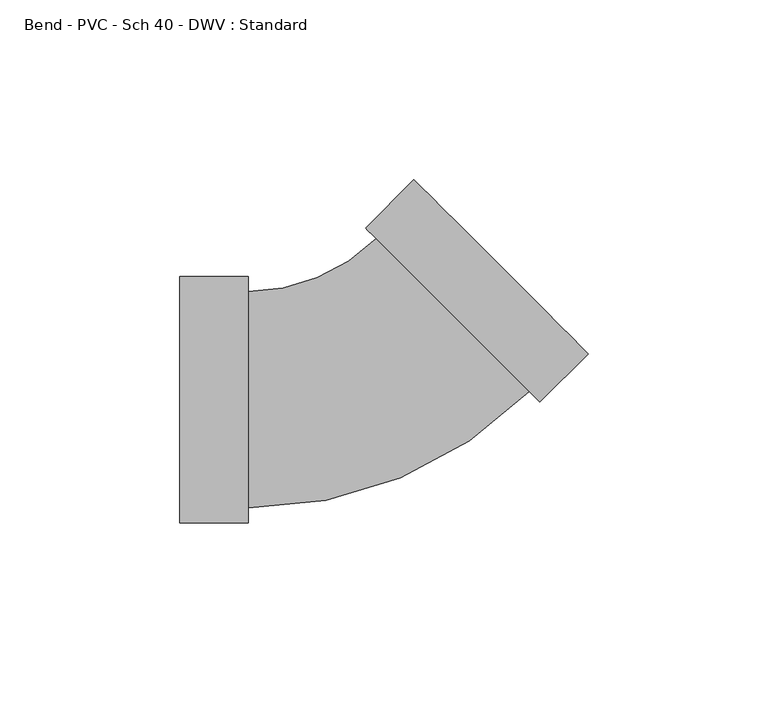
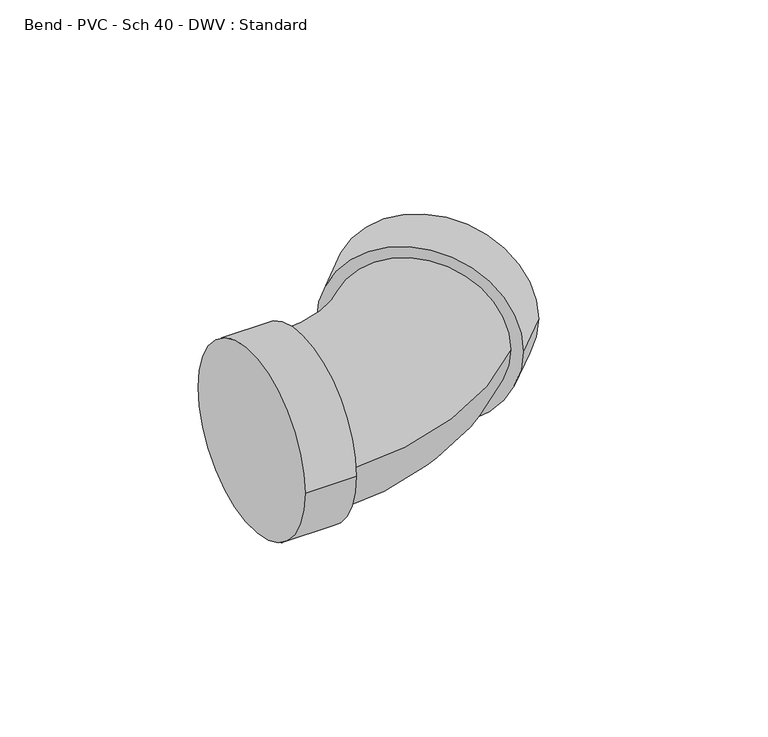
"""IFC4 building model written with IfcOpenShell, lengths in millimetres: pipe fitting geometry, Bend - PVC - Sch 40 - DWV : Standard."""

import ifcopenshell
import ifcopenshell.guid

model = None  # the IFC model being written
_history = None  # IfcOwnerHistory: only IFC2X3 demands one
_inside = {}  # id of a spatial element -> (the spatial element, [elements in it])
_under = {}  # id of a project, library or spatial element -> (it, [spatial elements below it])
_declared = {}  # id of a project -> (the project, [libraries it declares])
_typed = {}  # id of a type object -> (the type object, [elements of that type])
_made_of = {}  # id of a material, layer set ... -> (it, [elements and type objects made of it])


def new_model(schema):
    """Start an empty IFC model of exactly this schema.

    Asked for "IFC4X3", IfcOpenShell would pick the latest addendum, in which some entities
    have other attributes; the version numbers below select the first issue.
    IFC2X3 requires an IfcOwnerHistory on every rooted entity: one is made here for all.
    """
    global model, _history
    if schema == "IFC4X3":
        model = ifcopenshell.file(schema_version=(4, 3, 0, 0))
    else:
        model = ifcopenshell.file(schema=schema)
    _inside.clear()
    _under.clear()
    _declared.clear()
    _typed.clear()
    _made_of.clear()
    _history = None
    if model.schema == "IFC2X3":
        org = make("IfcOrganization", Name="unknown")
        user = make(
            "IfcPersonAndOrganization",
            ThePerson=make("IfcPerson", FamilyName="unknown"),
            TheOrganization=org,
        )
        app = make(
            "IfcApplication",
            ApplicationDeveloper=org,
            Version="unknown",
            ApplicationFullName="unknown",
            ApplicationIdentifier="unknown",
        )
        _history = make(
            "IfcOwnerHistory",
            OwningUser=user,
            OwningApplication=app,
            ChangeAction="ADDED",
            CreationDate=0,
        )
    return model


def make(cls, **values):
    """One entity of the class cls with the attributes given. An attribute that is None is left unset."""
    return model.create_entity(
        cls, **{name: value for name, value in values.items() if value is not None}
    )


def rooted(cls, **values):
    """An entity with a GlobalId (a new one), such as an element, a storey or a relation."""
    return make(cls, GlobalId=ifcopenshell.guid.new(), OwnerHistory=_history, **values)


def si_unit(unit_type, name, prefix=None):
    """IfcSIUnit, for example si_unit("LENGTHUNIT", "METRE", prefix="MILLI")."""
    return make("IfcSIUnit", UnitType=unit_type, Prefix=prefix, Name=name)


def assignment(units):
    """IfcUnitAssignment: the units of a project."""
    return None if units is None else make("IfcUnitAssignment", Units=units)


def point(xyz):
    """IfcCartesianPoint."""
    return None if xyz is None else make("IfcCartesianPoint", Coordinates=xyz)


def direction(xyz):
    """IfcDirection."""
    return None if xyz is None else make("IfcDirection", DirectionRatios=xyz)


def frame(location, z_axis=None, x_axis=None):
    """IfcAxis2Placement3D, a coordinate frame: its origin and axes. An axis left out is left unset."""
    return make(
        "IfcAxis2Placement3D",
        Location=point(location),
        Axis=direction(z_axis),
        RefDirection=direction(x_axis),
    )


def origin():
    """The frame at (0, 0, 0) with its axes left unset."""
    return frame((0.0, 0.0, 0.0))


def place(relative_to, where):
    """IfcLocalPlacement: puts the frame where relative to a parent placement (None: the world)."""
    return make(
        "IfcLocalPlacement", PlacementRelTo=relative_to, RelativePlacement=where
    )


def context(
    kind, dimensions, precision=None, world=None, true_north=None, identifier=None
):
    """IfcGeometricRepresentationContext, for example the 3D "Model" context."""
    return make(
        "IfcGeometricRepresentationContext",
        ContextIdentifier=identifier,
        ContextType=kind,
        CoordinateSpaceDimension=dimensions,
        Precision=precision,
        WorldCoordinateSystem=world,
        TrueNorth=true_north,
    )


def project(units=None, contexts=None):
    """IfcProject with its units and contexts."""
    return rooted(
        "IfcProject",
        Name="project",
        RepresentationContexts=contexts,
        UnitsInContext=assignment(units),
    )


def spatial(cls, under=None, at=None, **own):
    """A site, building, storey or space (cls), placed at a placement, below another one or the project."""
    s = rooted(cls, ObjectPlacement=at, **own)
    if under is not None:
        _under.setdefault(under.id(), (under, []))[1].append(s)
    return s


def circle_curve(where, radius):
    """IfcCircle in the frame where."""
    return make("IfcCircle", Position=where, Radius=radius)


def ellipse_curve(where, semi_axis1, semi_axis2):
    """IfcEllipse in the frame where."""
    return make(
        "IfcEllipse", Position=where, SemiAxis1=semi_axis1, SemiAxis2=semi_axis2
    )


def trimmed(basis, trim1, trim2, sense, master):
    """IfcTrimmedCurve: the piece of a basis curve between two trims."""
    return make(
        "IfcTrimmedCurve",
        BasisCurve=basis,
        Trim1=trim1,
        Trim2=trim2,
        SenseAgreement=sense,
        MasterRepresentation=master,
    )


def shape(context_of_items, identifier, shape_type, items):
    """IfcShapeRepresentation: the items that make up one representation, for example the "Body"."""
    return make(
        "IfcShapeRepresentation",
        ContextOfItems=context_of_items,
        RepresentationIdentifier=identifier,
        RepresentationType=shape_type,
        Items=items,
    )


def source(mapping_origin, context_of_items, identifier, shape_type, items):
    """IfcRepresentationMap: a shape defined once, which mapped items show again and again."""
    return make(
        "IfcRepresentationMap",
        MappingOrigin=mapping_origin,
        MappedRepresentation=shape(context_of_items, identifier, shape_type, items),
    )


def transform(
    local_origin,
    x_axis=None,
    y_axis=None,
    z_axis=None,
    scale=None,
    scale2=None,
    scale3=None,
    uniform=True,
):
    """IfcCartesianTransformationOperator3D, or its non-uniform kind. x_axis, y_axis, z_axis: its Axis1, 2, 3."""
    if uniform:
        return make(
            "IfcCartesianTransformationOperator3D",
            Axis1=direction(x_axis),
            Axis2=direction(y_axis),
            LocalOrigin=point(local_origin),
            Scale=scale,
            Axis3=direction(z_axis),
        )
    return make(
        "IfcCartesianTransformationOperator3DnonUniform",
        Axis1=direction(x_axis),
        Axis2=direction(y_axis),
        LocalOrigin=point(local_origin),
        Scale=scale,
        Axis3=direction(z_axis),
        Scale2=scale2,
        Scale3=scale3,
    )


def mapped(mapping_source, mapping_target):
    """IfcMappedItem: shows the shape of a source again, moved by a transform."""
    return make(
        "IfcMappedItem", MappingSource=mapping_source, MappingTarget=mapping_target
    )


def made_of(thing, what):
    """Note that an element or type object is made of a material, layer set ...; save() writes the relation."""
    if what is not None:
        _made_of.setdefault(what.id(), (what, []))[1].append(thing)
    return thing


def element(
    cls,
    number,
    at=None,
    inside=None,
    cuts=None,
    type_object=None,
    material=None,
    context=None,
    identifier="Body",
    shape_type=None,
    held_by="IfcProductDefinitionShape",
    body=None,
    shapes=None,
    **own,
):
    """One element of the class cls, such as IfcWall. Its Tag is "e" and its number.

    at: its placement. inside: the storey or other place that contains it. cuts: it is an
    opening in that element (IfcRelVoidsElement). A single representation is given by context,
    identifier, shape_type and body (its items); several are given by shapes. held_by: the class
    of the entity that holds the representations. save() writes the other relations.
    """
    e = rooted(cls, Tag="e%d" % number, ObjectPlacement=at, **own)
    if body is not None:
        shapes = [shape(context, identifier, shape_type, body)]
    if shapes is not None:
        e.Representation = make(held_by, Representations=shapes)
    if inside is not None:
        _inside.setdefault(inside.id(), (inside, []))[1].append(e)
    if cuts is not None:
        rooted(
            "IfcRelVoidsElement", RelatingBuildingElement=cuts, RelatedOpeningElement=e
        )
    if type_object is not None:
        _typed.setdefault(type_object.id(), (type_object, []))[1].append(e)
    return made_of(e, material)


def aggregate(whole, parts):
    """IfcRelAggregates: a whole, such as a stair, and the parts it consists of."""
    return rooted("IfcRelAggregates", RelatingObject=whole, RelatedObjects=parts)


def save(model, path):
    """Write the relations noted so far, then the file.

    IfcRelAggregates (storeys below a building ...), IfcRelContainedInSpatialStructure (elements
    in a storey), IfcRelDefinesByType, IfcRelAssociatesMaterial and IfcRelDeclares: one each for
    every whole, place, type object, material and project.
    """
    for whole, parts in _under.values():
        aggregate(whole, parts)
    for where, things in _inside.values():
        rooted(
            "IfcRelContainedInSpatialStructure",
            RelatedElements=things,
            RelatingStructure=where,
        )
    for kind, things in _typed.values():
        rooted("IfcRelDefinesByType", RelatedObjects=things, RelatingType=kind)
    for what, things in _made_of.values():
        rooted("IfcRelAssociatesMaterial", RelatedObjects=things, RelatingMaterial=what)
    for by, libraries in _declared.values():
        rooted("IfcRelDeclares", RelatingContext=by, RelatedDefinitions=libraries)
    model.write(path)


def plane_surface(at):
    """IfcPlane: the flat surface through the origin of the frame at, square to its z axis."""
    return make("IfcPlane", Position=at)


def cylinder_surface(at, radius):
    """IfcCylindricalSurface: all points at the distance radius from the z axis of the frame at."""
    return make("IfcCylindricalSurface", Position=at, Radius=radius)


def revolved_surface(curve, axis_point, axis_direction):
    """IfcSurfaceOfRevolution: the curve turned about the line through axis_point along axis_direction."""
    return make(
        "IfcSurfaceOfRevolution",
        SweptCurve=make("IfcArbitraryOpenProfileDef", ProfileType="CURVE", Curve=curve),
        AxisPosition=make("IfcAxis1Placement", Location=point(axis_point), Axis=direction(axis_direction)),
    )


def advanced_brep(points, edges, surfaces, faces):
    """IfcAdvancedBrep: a solid bounded by faces that lie on surfaces and meet in shared edges.

    An edge is (start, end): straight between two places in points (the first is 0);
    or (start, end, curve); or (start, end, curve, False) where it runs against its curve.
    A face is (place in surfaces, loops), or (place, loops, False) where it looks against
    its surface's normal. A loop lists edges by number (the first is 1), with a minus sign
    where the edge is run from its end to its start. The first loop is the outer one.
    """
    corners = [point(p) for p in points]
    vertices = [make("IfcVertexPoint", VertexGeometry=c) for c in corners]
    made = []
    for start, end, *more in edges:
        made.append(
            make(
                "IfcEdgeCurve",
                EdgeStart=vertices[start],
                EdgeEnd=vertices[end],
                EdgeGeometry=more[0] if more else make("IfcPolyline", Points=[corners[start], corners[end]]),
                SameSense=more[1] if len(more) > 1 else True,
            )
        )
    hull = []
    for where, loops, *sense in faces:
        bounds = []
        for j, loop in enumerate(loops):
            ring = [make("IfcOrientedEdge", EdgeElement=made[abs(k) - 1], Orientation=k > 0) for k in loop]
            bounds.append(
                make(
                    "IfcFaceOuterBound" if j == 0 else "IfcFaceBound",
                    Bound=make("IfcEdgeLoop", EdgeList=ring),
                    Orientation=True,
                )
            )
        hull.append(make("IfcAdvancedFace", Bounds=bounds, FaceSurface=surfaces[where], SameSense=sense[0] if sense else True))
    return make("IfcAdvancedBrep", Outer=make("IfcClosedShell", CfsFaces=hull))


def bend_pvc_sch_40_dwv_standard_8d98913a(model_context):
    return source(origin(), model_context, "Body", "AdvancedBrep", [
        advanced_brep(
        [(-52.4002, -34.3154, 0.0), (-52.4002, 34.3154, 0.0), (-33.3502, -34.3154, 0.0), (-33.3502, 34.3154, 0.0), (-33.3502, -30.1625, 0.0), (-33.3502, 30.1625, 0.0), (2.2529016, 44.9103182, 0.0), (44.9102035, 2.2551869, 0.0), (47.846822, -0.6812821, 0.0), (-0.6837168, 47.8467872, 0.0), (61.3168634, 12.7894448, 0.0), (12.7863246, 61.3175141, 0.0)],
        [
            (0, 1, circle_curve(frame((-52.4002, 0.0, 0.0), z_axis=(-1.0, 0.0, 0.0), x_axis=(0.0, 1.0, 0.0)), 34.3154)),
            (1, 0, circle_curve(frame((-52.4002, 0.0, 0.0), z_axis=(-1.0, 0.0, 0.0), x_axis=(0.0, 1.0, 0.0)), 34.3154)),
            (2, 3, circle_curve(frame((-33.3502, 0.0, 0.0), z_axis=(1.0, 0.0, 0.0), x_axis=(0.0, 1.0, 0.0)), 34.3154)),
            (3, 2, circle_curve(frame((-33.3502, 0.0, 0.0), z_axis=(1.0, 0.0, 0.0), x_axis=(0.0, 1.0, 0.0)), 34.3154)),
            (4, 5, circle_curve(frame((-33.3502, 0.0, 0.0), z_axis=(-1.0, 0.0, 0.0), x_axis=(0.0, 1.0, 0.0)), 30.1625)),
            (5, 4, circle_curve(frame((-33.3502, 0.0, 0.0), z_axis=(-1.0, 0.0, 0.0), x_axis=(0.0, 1.0, 0.0)), 30.1625)),
            (0, 2),
            (3, 1),
            (6, 5, circle_curve(frame((-33.3502, 80.5116082, 0.0), z_axis=(0.0, 0.0, -1.0), x_axis=(0.0, -1.0, 0.0)), 50.3491082)),
            (4, 7, circle_curve(frame((-33.3502, 80.5116082, 0.0), z_axis=(0.0, 0.0, 1.0), x_axis=(0.0, -1.0, 0.0)), 110.6741082)),
            (7, 6, circle_curve(frame((23.5815526, 23.5827526, 0.0), z_axis=(-0.7070887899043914, -0.7071247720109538, 0.0), x_axis=(-0.7071247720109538, 0.7070887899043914, 0.0)), 30.1625)),
            (6, 7, circle_curve(frame((23.5815526, 23.5827526, 0.0), z_axis=(-0.7070887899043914, -0.7071247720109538, 0.0), x_axis=(-0.7071247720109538, 0.7070887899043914, 0.0)), 30.1625)),
            (8, 9, circle_curve(frame((23.5815526, 23.5827526, 0.0), z_axis=(-0.7070887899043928, -0.7071247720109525, 0.0), x_axis=(-0.7071247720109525, 0.7070887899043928, 0.0)), 34.3154)),
            (9, 8, circle_curve(frame((23.5815526, 23.5827526, 0.0), z_axis=(-0.7070887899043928, -0.7071247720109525, 0.0), x_axis=(-0.7071247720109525, 0.7070887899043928, 0.0)), 34.3154)),
            (10, 11, circle_curve(frame((37.051594, 37.0534795, 0.0), z_axis=(0.7070887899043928, 0.7071247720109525, 0.0), x_axis=(-0.7071247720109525, 0.7070887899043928, 0.0)), 34.3154)),
            (11, 10, circle_curve(frame((37.051594, 37.0534795, 0.0), z_axis=(0.7070887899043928, 0.7071247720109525, 0.0), x_axis=(-0.7071247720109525, 0.7070887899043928, 0.0)), 34.3154)),
            (8, 10),
            (11, 9),
        ],
        [
            plane_surface(frame((-52.4002, 0.0, 0.0), z_axis=(-1.0, 0.0, 0.0), x_axis=(0.0, 0.0, 1.0))),
            plane_surface(frame((-33.3502, 0.0, 0.0), z_axis=(1.0, 0.0, 0.0), x_axis=(0.0, 0.0, 1.0))),
            cylinder_surface(frame((-52.4002, 0.0, 0.0), z_axis=(-1.0, 0.0, 0.0), x_axis=(0.0, 1.0, 0.0)), 34.3154),
            revolved_surface(trimmed(ellipse_curve(frame((-33.3502, 0.0, 0.0), z_axis=(-1.0, 0.0, 0.0), x_axis=(0.0, 1.0, 0.0)), 30.1625, 30.1625), [point((-33.3502, -30.1625, 0.0))], [point((-33.3502, 30.1625, 0.0))], True, "CARTESIAN"), (-33.3502, 80.5116082, 0.0), (0.0, 0.0, 1.0)),
            revolved_surface(trimmed(ellipse_curve(frame((-33.3502, 0.0, 0.0), z_axis=(-1.0, 0.0, 0.0), x_axis=(0.0, 1.0, 0.0)), 30.1625, 30.1625), [point((-33.3502, 30.1625, 0.0))], [point((-33.3502, -30.1625, 0.0))], True, "CARTESIAN"), (-33.3502, 80.5116082, 0.0), (0.0, 0.0, 1.0)),
            plane_surface(frame((23.5815526, 23.5827526, 0.0), z_axis=(-0.7070887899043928, -0.7071247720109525, 0.0), x_axis=(0.0, 0.0, 1.0))),
            plane_surface(frame((37.051594, 37.0534795, 0.0), z_axis=(0.7070887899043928, 0.7071247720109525, 0.0), x_axis=(0.0, 0.0, 1.0))),
            cylinder_surface(frame((23.5815526, 23.5827526, 0.0), z_axis=(-0.7070887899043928, -0.7071247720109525, 0.0), x_axis=(-0.7071247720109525, 0.7070887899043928, 0.0)), 34.3154),
        ],
        [
            (0, [[1, 2]]),
            (1, [[3, 4], [5, 6]]),
            (2, [[-1, 7, -4, 8]]),
            (2, [[-2, -8, -3, -7]]),
            (3, [[9, -5, 10, 11]]),
            (4, [[-9, 12, -10, -6]]),
            (5, [[13, 14], [-11, -12]]),
            (6, [[15, 16]]),
            (7, [[-13, 17, -16, 18]]),
            (7, [[-14, -18, -15, -17]]),
        ],
    ),
    ])


if __name__ == "__main__":
    model = new_model("IFC4")
    model_context = context("Model", 3, world=origin())
    ifc_project = project(units=[si_unit("LENGTHUNIT", "METRE", prefix="MILLI")], contexts=[model_context])
    site = spatial("IfcSite", under=ifc_project)
    building = spatial("IfcBuilding", under=site)
    placement = place(None, origin())
    bend_pvc_sch_40_dwv_standard_shape = bend_pvc_sch_40_dwv_standard_8d98913a(model_context)
    element("IfcPipeFitting", 1, ObjectType="Bend - PVC - Sch 40 - DWV : Standard", at=placement, inside=building, context=model_context, shape_type="MappedRepresentation", body=[
        mapped(bend_pvc_sch_40_dwv_standard_shape, transform((0.0, 0.0, 0.0), x_axis=(1.0, 0.0, 0.0), y_axis=(0.0, 1.0, 0.0), z_axis=(0.0, 0.0, 1.0))),
    ])
    save(model, "model.ifc")
